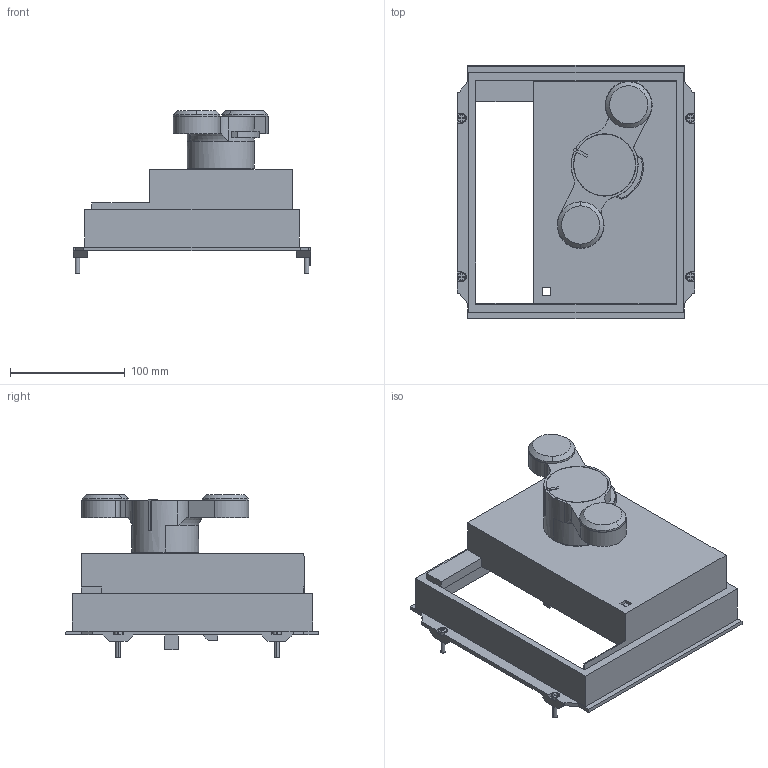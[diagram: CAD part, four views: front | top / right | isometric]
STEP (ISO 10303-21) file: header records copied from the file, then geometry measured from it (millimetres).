
FILE_DESCRIPTION((''),'2;1');
FILE_NAME('33873-3D_ASM','2024-09-13T11:26:19',('SESA621925'),('Schneider-Electric'),'CREO PARAMETRIC BY PTC INC, 2022484','CREO PARAMETRIC BY PTC INC, 2022484','');
FILE_SCHEMA(('AP242_MANAGED_MODEL_BASED_3D_ENGINEERING_MIM_LF { 1 0 10303 442 1 1 4 }'));
Length unit declared in the file: millimetre
Products named in the file (2): 33873; 33873-3D_ASM
Assembly tree (1 placements, depth 2):
  33873-3D_ASM
    33873
Bounding box: 207.8 x 220.97 x 142.15 mm (x, y, z)
Volume: 505293.2 mm3; surface area: 240008.1 mm2
Topology: 5 solids, 5 shells, 883 faces, 2405 edges, 1589 vertices
Faces by surface type: plane 570, cylinder 296, torus 10, cone 5, revolution 2
Entity records: 41371 total; most frequent: CARTESIAN_POINT 5033, ORIENTED_EDGE 4810, DIRECTION 4783, PRESENTATION_STYLE_ASSIGNMENT 3182, STYLED_ITEM 2412, CURVE_STYLE 2407, EDGE_CURVE 2405, VECTOR 1745
